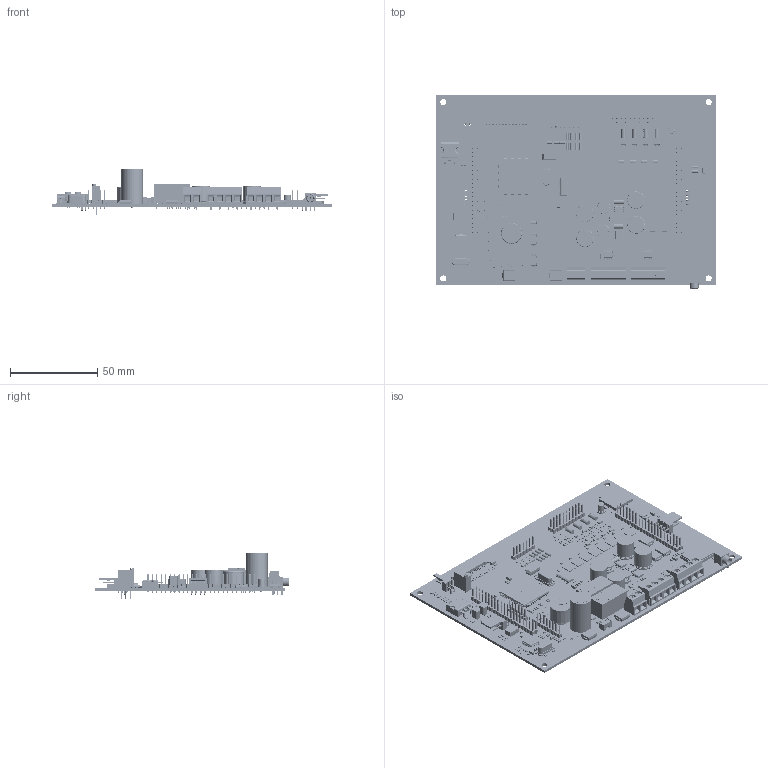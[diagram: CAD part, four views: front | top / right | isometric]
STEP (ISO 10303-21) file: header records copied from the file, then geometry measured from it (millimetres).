
FILE_DESCRIPTION(('Open CASCADE Model'),'2;1');
FILE_NAME('Open CASCADE Shape Model','2014-09-30T14:56:41',('Author'),( 'Open CASCADE'),'Open CASCADE STEP processor 6.2','Open CASCADE 6.2' ,'Unknown');
FILE_SCHEMA(('AUTOMOTIVE_DESIGN { 1 0 10303 214 1 1 1 1 }'));
Length unit declared in the file: millimetre
Products named in the file (431): PCB; Board; Q15X; TO-92B; VIN; 1729018; mkdsn_1.5-2; R129; RESC1206X71N; R128; R127; R126; R125; R124; Q13X; P5; SIL10P; ANT; MCX-rt; BUZ1; buzzer; C1; 1079562800; Cylinder; 1079562920; 1079563040; C2; capacitor_size_G; C3; C4; C5; CAP_0603; User_Library-CAP_0603_CAP_0603_Lead_1; User_Library-CAP_0603_CAP_0603_Body_1; C6; C7; C8; C9; C10; Tant-cap_a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
Assembly tree (825 placements, depth 4):
  PCB
    Board
    Q15X
      TO-92B
    VIN
      1729018
        mkdsn_1.5-2
    R129
      RESC1206X71N
    R128
      RESC1206X71N
    R127
      RESC1206X71N
    R126
      RESC1206X71N
    R125
      RESC1206X71N
    R124
      RESC1206X71N
    Q13X
      TO-92B
    P5
      SIL10P  x2
    ANT
      MCX-rt
    BUZ1
      buzzer
    C1
      1079562800  x2
        Cylinder
      1079562920
        Cylinder
      1079563040
        Cylinder
    C2
      capacitor_size_G
    C3
      capacitor_size_G
    C4
      capacitor_size_G
    C5
      CAP_0603
        User_Library-CAP_0603_CAP_0603_Lead_1  x2
        User_Library-CAP_0603_CAP_0603_Body_1
    C6
      CAP_0603
        User_Library-CAP_0603_CAP_0603_Lead_1  x2
        User_Library-CAP_0603_CAP_0603_Body_1
    C7
      capacitor_size_G
    C8
      CAP_0603
        User_Library-CAP_0603_CAP_0603_Lead_1  x2
        User_Library-CAP_0603_CAP_0603_Body_1
    C9
      CAP_0603
        User_Library-CAP_0603_CAP_0603_Lead_1  x2
        User_Library-CAP_0603_CAP_0603_Body_1
    C10
      Tant-cap_a
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Bounding box: 160.02 x 110.93 x 26.5 mm (x, y, z)
Volume: 47595.6 mm3; surface area: 65397.9 mm2
Topology: 668 solids, 3440 shells, 24866 faces, 66441 edges, 46280 vertices
Faces by surface type: plane 17130, bspline 5055, cylinder 2242, sphere 308, extrusion 68, torus 59, cone 4
Full cylindrical faces by diameter (mm): 0.7 x8, 0.8 x5, 0.9 x4, 1 x141, 1.016 x8, 1.2 x10, 1.4 x15, 3.5 x4, 10 x1, 12.6 x1
Entity records: 746430 total; most frequent: CARTESIAN_POINT 257803, DIRECTION 56789, ORIENTED_EDGE 44212, PCURVE 44212, DEFINITIONAL_REPRESENTATION 44212, VECTOR 37435, LINE 37401, B_SPLINE_CURVE_WITH_KNOTS 27729
